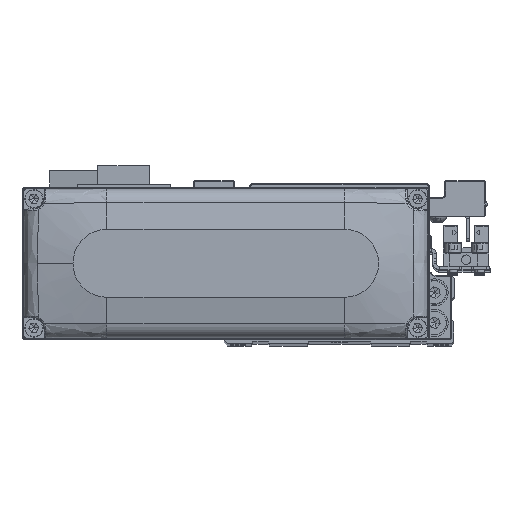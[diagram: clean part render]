
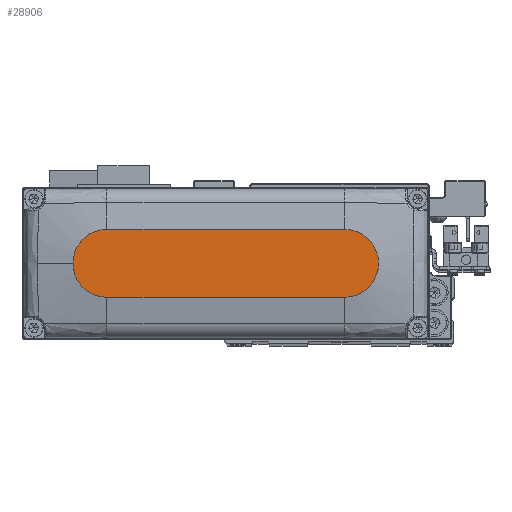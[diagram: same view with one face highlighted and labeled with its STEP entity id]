
A CAD part, top view. The second image highlights one B-rep face of the part: STEP entity #28906.
In plain terms, the highlighted planar face has unit normal (0, 0, 1).
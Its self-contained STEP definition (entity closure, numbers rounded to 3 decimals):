
#1195 = CARTESIAN_POINT ( 'NONE',  ( -35., 10., 28. ) ) ;
#1389 = EDGE_CURVE ( 'NONE', #26044, #10346, #31969, .T. ) ;
#2064 = DIRECTION ( 'NONE',  ( 1., 0., 0. ) ) ;
#3238 = LINE ( 'NONE', #15222, #20113 ) ;
#3382 = CARTESIAN_POINT ( 'NONE',  ( 45., 0., 28. ) ) ;
#3525 = EDGE_CURVE ( 'NONE', #26000, #8790, #3238, .T. ) ;
#4349 = ORIENTED_EDGE ( 'NONE', *, *, #12584, .T. ) ;
#6212 = LINE ( 'NONE', #18217, #36384 ) ;
#8630 = CARTESIAN_POINT ( 'NONE',  ( 0., 0., 28. ) ) ;
#8790 = VERTEX_POINT ( 'NONE', #29825 ) ;
#8811 = DIRECTION ( 'NONE',  ( 0., 0., 1. ) ) ;
#10107 = DIRECTION ( 'NONE',  ( 1., 0., 0. ) ) ;
#10304 = ORIENTED_EDGE ( 'NONE', *, *, #18111, .T. ) ;
#10346 = VERTEX_POINT ( 'NONE', #36499 ) ;
#10625 = EDGE_LOOP ( 'NONE', ( #12249, #4349, #25657, #10304, #10644 ) ) ;
#10644 = ORIENTED_EDGE ( 'NONE', *, *, #1389, .T. ) ;
#12249 = ORIENTED_EDGE ( 'NONE', *, *, #20445, .T. ) ;
#12584 = EDGE_CURVE ( 'NONE', #22774, #26000, #31717, .T. ) ;
#13360 = AXIS2_PLACEMENT_3D ( 'NONE', #16997, #28952, #2064 ) ;
#14808 = AXIS2_PLACEMENT_3D ( 'NONE', #25021, #36978, #10107 ) ;
#15064 = AXIS2_PLACEMENT_3D ( 'NONE', #35689, #8811, #20808 ) ;
#15222 = CARTESIAN_POINT ( 'NONE',  ( -35., -10., 28. ) ) ;
#16997 = CARTESIAN_POINT ( 'NONE',  ( 35., 0., 28. ) ) ;
#18111 = EDGE_CURVE ( 'NONE', #8790, #26044, #30268, .T. ) ;
#18217 = CARTESIAN_POINT ( 'NONE',  ( -35., 10., 28. ) ) ;
#20113 = VECTOR ( 'NONE', #27180, 1000. ) ;
#20445 = EDGE_CURVE ( 'NONE', #10346, #22774, #6212, .T. ) ;
#20622 = DIRECTION ( 'NONE',  ( 0., 0., 1. ) ) ;
#20808 = DIRECTION ( 'NONE',  ( 1., 0., 0. ) ) ;
#22774 = VERTEX_POINT ( 'NONE', #1195 ) ;
#23558 = FACE_OUTER_BOUND ( 'NONE', #10625, .T. ) ;
#23781 = CARTESIAN_POINT ( 'NONE',  ( -35., -10., 28. ) ) ;
#25021 = CARTESIAN_POINT ( 'NONE',  ( -35., 0., 28. ) ) ;
#25657 = ORIENTED_EDGE ( 'NONE', *, *, #3525, .T. ) ;
#26000 = VERTEX_POINT ( 'NONE', #23781 ) ;
#26044 = VERTEX_POINT ( 'NONE', #3382 ) ;
#27180 = DIRECTION ( 'NONE',  ( 1., 0., 0. ) ) ;
#28906 = ADVANCED_FACE ( 'NONE', ( #23558 ), #35516, .T. ) ;
#28952 = DIRECTION ( 'NONE',  ( 0., 0., 1. ) ) ;
#29825 = CARTESIAN_POINT ( 'NONE',  ( 35., -10., 28. ) ) ;
#30180 = DIRECTION ( 'NONE',  ( -1., 0., 0. ) ) ;
#30268 = CIRCLE ( 'NONE', #13360, 10. ) ;
#30629 = AXIS2_PLACEMENT_3D ( 'NONE', #8630, #20622, #32585 ) ;
#31717 = CIRCLE ( 'NONE', #14808, 10. ) ;
#31969 = CIRCLE ( 'NONE', #15064, 10. ) ;
#32585 = DIRECTION ( 'NONE',  ( 1., 0., 0. ) ) ;
#35516 = PLANE ( 'NONE',  #30629 ) ;
#35689 = CARTESIAN_POINT ( 'NONE',  ( 35., 0., 28. ) ) ;
#36384 = VECTOR ( 'NONE', #30180, 1000. ) ;
#36499 = CARTESIAN_POINT ( 'NONE',  ( 35., 10., 28. ) ) ;
#36978 = DIRECTION ( 'NONE',  ( 0., 0., 1. ) ) ;
